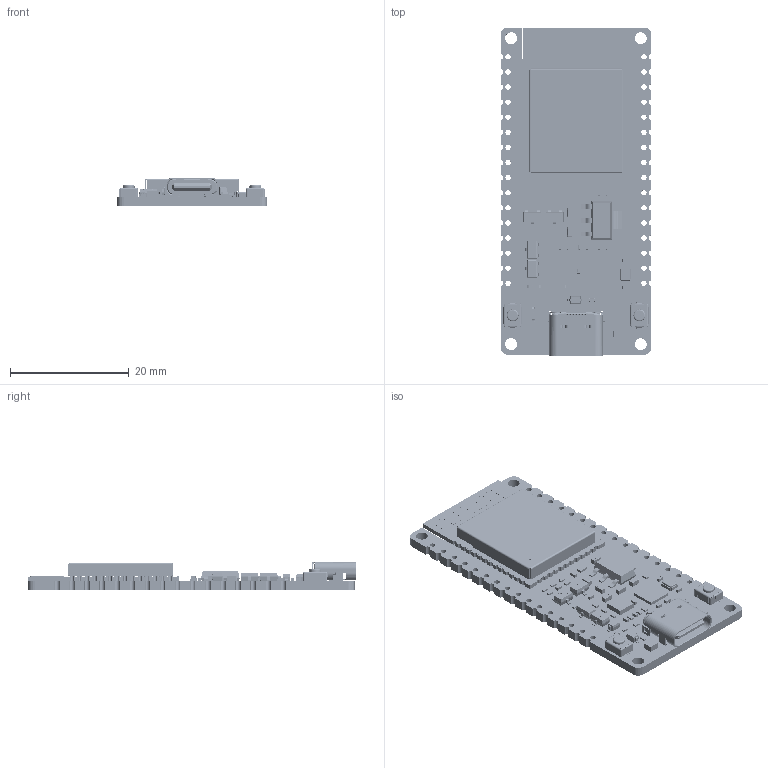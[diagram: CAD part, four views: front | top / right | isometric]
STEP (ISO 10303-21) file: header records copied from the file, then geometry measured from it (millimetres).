
FILE_DESCRIPTION((''),'2;1');
FILE_NAME('ESP32-C6-DEV-KIT-N8_ASM','2026-02-04T17:06:59',('ag'),(''),'CREO PARAMETRIC BY PTC INC, 2021063','CREO PARAMETRIC BY PTC INC, 2021063','');
FILE_SCHEMA(('CONFIG_CONTROL_DESIGN','SHAPE_APPEARANCE_LAYERS_GROUPS'));
Products named in the file (135): BOARD; SOLID-35188; SOLID-125402; SOLID-126517; SOLID-127567; SOLID-128823; SOLID-130010; SOLID-132413; SOLID-134839; SOLID-137122; SOLID-139428; SOLID-140740; SOLID-141960; SOLID-145515; SOLID-149586; SOLID-152470; SOLID-156682; SOLID-159772; SOLID-163346; SOLID-164667; SOLID-166080; SOLID-171096; SOLID-176177; 698B116-264-211_ASM; H1_ASM; _2_1_20001; 5_1_2_A; _7_AF0; R_0402-3099_AF0_ASM_ASM; R_0402-5222_AF0_ASM_ASM; R0402_ASM; R1_ASM; EXTRUDED-244286; 1221149728_ASM; LED2_ASM; USER_LIBRARY-LED_0603_R_-244697; USER_LIBRARY-LED_0603_R_PAD004; USER_LIBRARY-LED_0603_R_FILLET; USER_LIBRARY-LED_0603_R_-247052; USER_LIBRARY-LED_0603_R_PAD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
Assembly tree (188 placements, depth 6):
  ESP32-C6-DEV-KIT-N8_ASM
    BOARD
    H1_ASM
      698B116-264-211_ASM
        SOLID-35188
        SOLID-125402
        SOLID-126517
        SOLID-127567
        SOLID-128823
        SOLID-130010
        SOLID-132413
        SOLID-134839
        SOLID-137122
        SOLID-139428
        SOLID-140740
        SOLID-141960
        SOLID-145515
        SOLID-149586
        SOLID-152470
        SOLID-156682
        SOLID-159772
        SOLID-163346
        SOLID-164667
        SOLID-166080
        SOLID-171096
        SOLID-176177
    R1_ASM
      R0402_ASM
        R_0402-5222_AF0_ASM_ASM
          R_0402-3099_AF0_ASM_ASM
            _2_1_20001
            5_1_2_A
            _7_AF0
    LED2_ASM
      1221149728_ASM
        EXTRUDED-244286
    LED1_ASM
      USER_LIBRARY-LED_0603_R_ASM
        USER_LIBRARY-LED_0603_R_-244697
        USER_LIBRARY-LED_0603_R_PAD004
        USER_LIBRARY-LED_0603_R_FILLET
        USER_LIBRARY-LED_0603_R_-247052
        USER_LIBRARY-LED_0603_R_PAD
    KEY2_ASM
      SMT_TACTILE_SWITCH_PTS-820
    KEY1_ASM
      SMT_TACTILE_SWITCH_PTS-820
    C1_ASM
      C_0402_ASM
        C_0402-4045_AF0_ASM_ASM
          C_0402-672_AF0_ASM_ASM
            _1_10001
            3_1_A
            2_100
    C2_ASM
      C_0603_ASM
        C_0603-7177_AF0_ASM_ASM
          C_0603-683_AF0_ASM_ASM
            2_1_200
            _1_1_20001
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Bounding box: 25.38 x 55.29 x 4.85 mm (x, y, z)
Volume: 2758.6 mm3; surface area: 6437.8 mm2
Topology: 216 solids, 230 shells, 19744 faces, 52836 edges, 34806 vertices
Faces by surface type: plane 14700, extrusion 2861, cylinder 1863, sphere 226, torus 48, cone 36, bspline 10
Entity records: 255291 total; most frequent: CARTESIAN_POINT 54177, ORIENTED_EDGE 34816, DIRECTION 31508, EDGE_CURVE 17409, VECTOR 14302, LINE 13793, VERTEX_POINT 11498, PRESENTATION_STYLE_ASSIGNMENT 9657
